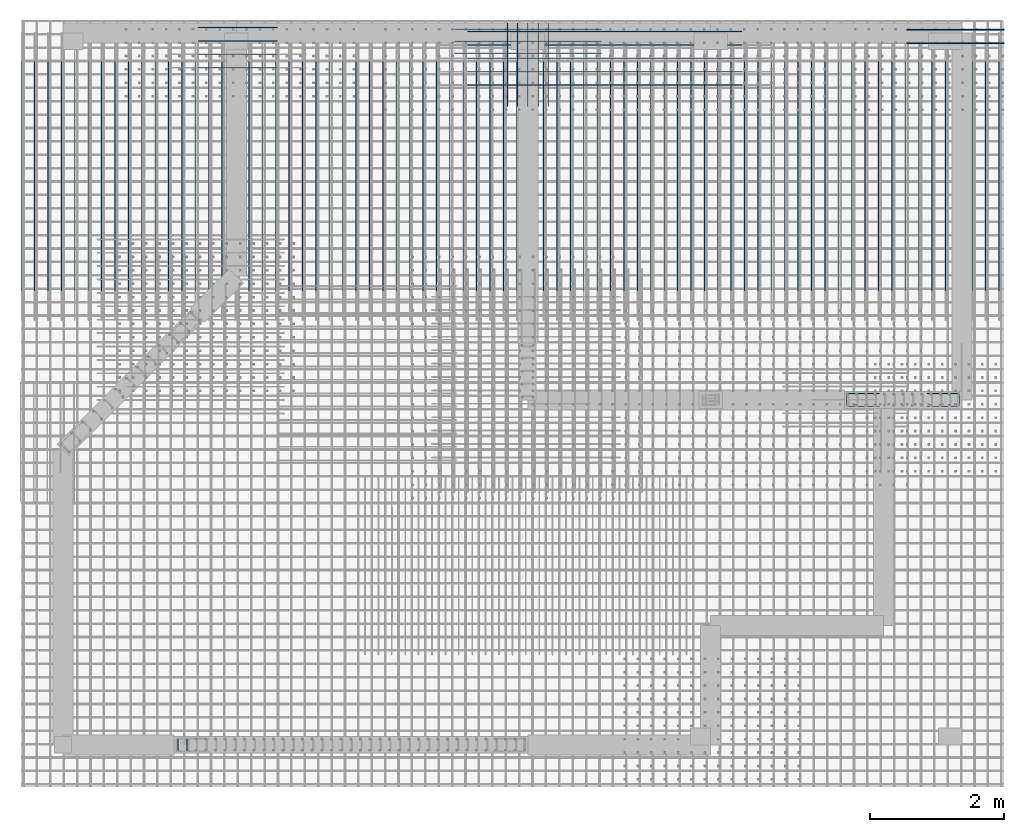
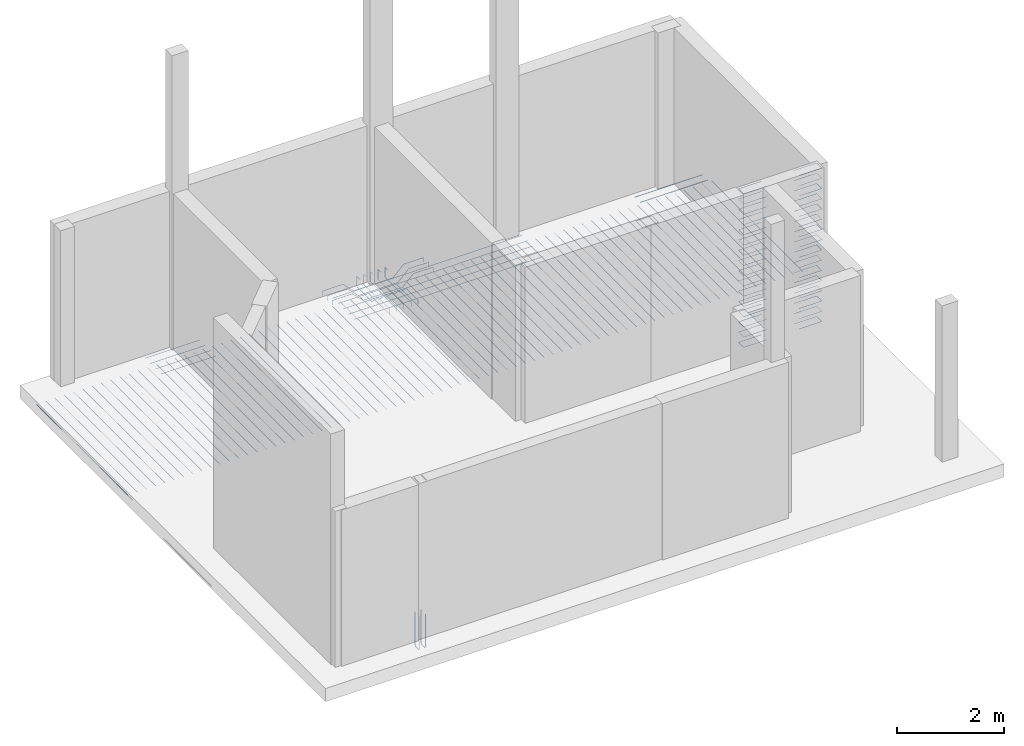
# One storey, part 8 of 8: 8 reinforcing bars.
"""IFC4 building model written with IfcOpenShell, lengths in metres."""

from ifc_helpers import new_model, entity, si_unit, origin_with_axes, place, context, project, spatial, source, transform, mapped, element, save


model = new_model("IFC4")

# Units and contexts
model_context = context("Model", 3, precision=1e-05, world=origin_with_axes())
ifc_project = project(units=[si_unit("LENGTHUNIT", "METRE"), si_unit("AREAUNIT", "SQUARE_METRE"), si_unit("VOLUMEUNIT", "CUBIC_METRE"), si_unit("MASSUNIT", "GRAM", prefix="KILO"), si_unit("TIMEUNIT", "SECOND"), si_unit("PLANEANGLEUNIT", "RADIAN"), si_unit("SOLIDANGLEUNIT", "STERADIAN"), si_unit("THERMODYNAMICTEMPERATUREUNIT", "DEGREE_CELSIUS")], contexts=[model_context])

# Site, building, storey
placement_1 = place(None, origin_with_axes())
site = spatial("IfcSite", under=ifc_project, at=placement_1, Name="Italia", CompositionType="ELEMENT")
building = spatial("IfcBuilding", under=site, at=placement_1, Name="Abitazione", CompositionType="ELEMENT")
storey = spatial("IfcBuildingStorey", under=building, at=placement_1, Name="Storey 0", CompositionType="ELEMENT", Elevation=0.0)

# Reinforcing bars
shared_shape_1 = source(origin_with_axes(), model_context, "Body", "AdvancedSweptSolid", [
    entity("IfcSweptDiskSolid", entity("IfcIndexedPolyCurve", entity("IfcCartesianPointList3D", [[3.041, 0.872, 0.5], [3.041, 0.872, -0.235], [3.041, 0.868955, -0.250307], [3.041, 0.860284, -0.263284], [3.041, 0.847307, -0.271955], [3.041, 0.832, -0.275], [3.041, 0.772, -0.275]]), [entity("IfcLineIndex", [1, 2]), entity("IfcLineIndex", [2, 3]), entity("IfcLineIndex", [3, 4]), entity("IfcLineIndex", [4, 5]), entity("IfcLineIndex", [5, 6]), entity("IfcLineIndex", [6, 7])], False), 0.008),
])
placement_2 = place(placement_1, origin_with_axes())
reinforcing_bar_1_placement = place(placement_2, origin_with_axes())
element("IfcReinforcingBar", 1, at=reinforcing_bar_1_placement, inside=storey, BarLength=0.857429, CrossSectionArea=0.00020106, NominalDiameter=0.016, context=model_context, shape_type="MappedRepresentation", body=[
    mapped(shared_shape_1, transform((6.082, 1.58, 0.0), x_axis=(-1.0, 0.0, 0.0), y_axis=(0.0, -1.0, 0.0), z_axis=(0.0, 0.0, 1.0), scale=1.0)),
    mapped(shared_shape_1, transform((0.0, 0.0, 0.0), x_axis=(1.0, 0.0, 0.0), y_axis=(0.0, 1.0, 0.0), z_axis=(0.0, 0.0, 1.0), scale=1.0)),
    mapped(shared_shape_1, transform((5.95, 1.58, 0.0), x_axis=(-1.0, 0.0, 0.0), y_axis=(0.0, -1.0, 0.0), z_axis=(0.0, 0.0, 1.0), scale=1.0)),
    mapped(shared_shape_1, transform((-0.132, 0.0, 0.0), x_axis=(1.0, 0.0, 0.0), y_axis=(0.0, 1.0, 0.0), z_axis=(0.0, 0.0, 1.0), scale=1.0)),
])
shared_shape_2 = source(origin_with_axes(), model_context, "Body", "AdvancedSweptSolid", [
    entity("IfcSweptDiskSolid", entity("IfcIndexedPolyCurve", entity("IfcCartesianPointList3D", [[14.09, 6.035, 0.04], [14.57, 6.035, 0.04], [14.5738, 6.03424, 0.04], [14.5771, 6.03207, 0.04], [14.5792, 6.02883, 0.04], [14.58, 6.025, 0.04], [14.58, 5.855, 0.04], [14.5792, 5.85117, 0.04], [14.5771, 5.84793, 0.04], [14.5738, 5.84576, 0.04], [14.57, 5.845, 0.04], [14.09, 5.845, 0.04]]), [entity("IfcLineIndex", [1, 2]), entity("IfcLineIndex", [2, 3]), entity("IfcLineIndex", [3, 4]), entity("IfcLineIndex", [4, 5]), entity("IfcLineIndex", [5, 6]), entity("IfcLineIndex", [6, 7]), entity("IfcLineIndex", [7, 8]), entity("IfcLineIndex", [8, 9]), entity("IfcLineIndex", [9, 10]), entity("IfcLineIndex", [10, 11]), entity("IfcLineIndex", [11, 12])], False), 0.005),
])
reinforcing_bar_2_placement = place(placement_2, origin_with_axes())
element("IfcReinforcingBar", 2, at=reinforcing_bar_2_placement, inside=storey, BarLength=1.16121, CrossSectionArea=7.854e-05, NominalDiameter=0.01, context=model_context, shape_type="MappedRepresentation", body=[
    mapped(shared_shape_2, transform((0.0, 0.0, 2.34), x_axis=(1.0, 0.0, 0.0), y_axis=(0.0, 1.0, 0.0), z_axis=(0.0, 0.0, 1.0), scale=1.0)),
    mapped(shared_shape_2, transform((0.0, 0.0, 2.574), x_axis=(1.0, 0.0, 0.0), y_axis=(0.0, 1.0, 0.0), z_axis=(0.0, 0.0, 1.0), scale=1.0)),
    mapped(shared_shape_2, transform((0.0, 0.0, 1.872), x_axis=(1.0, 0.0, 0.0), y_axis=(0.0, 1.0, 0.0), z_axis=(0.0, 0.0, 1.0), scale=1.0)),
    mapped(shared_shape_2, transform((0.0, 0.0, 2.106), x_axis=(1.0, 0.0, 0.0), y_axis=(0.0, 1.0, 0.0), z_axis=(0.0, 0.0, 1.0), scale=1.0)),
    mapped(shared_shape_2, transform((0.0, 0.0, 3.276), x_axis=(1.0, 0.0, 0.0), y_axis=(0.0, 1.0, 0.0), z_axis=(0.0, 0.0, 1.0), scale=1.0)),
    mapped(shared_shape_2, transform((0.0, 0.0, 3.51), x_axis=(1.0, 0.0, 0.0), y_axis=(0.0, 1.0, 0.0), z_axis=(0.0, 0.0, 1.0), scale=1.0)),
    mapped(shared_shape_2, transform((0.0, 0.0, 2.808), x_axis=(1.0, 0.0, 0.0), y_axis=(0.0, 1.0, 0.0), z_axis=(0.0, 0.0, 1.0), scale=1.0)),
    mapped(shared_shape_2, transform((0.0, 0.0, 3.042), x_axis=(1.0, 0.0, 0.0), y_axis=(0.0, 1.0, 0.0), z_axis=(0.0, 0.0, 1.0), scale=1.0)),
    mapped(shared_shape_2, transform((0.0, 0.0, 0.468), x_axis=(1.0, 0.0, 0.0), y_axis=(0.0, 1.0, 0.0), z_axis=(0.0, 0.0, 1.0), scale=1.0)),
    mapped(shared_shape_2, transform((0.0, 0.0, 0.702), x_axis=(1.0, 0.0, 0.0), y_axis=(0.0, 1.0, 0.0), z_axis=(0.0, 0.0, 1.0), scale=1.0)),
    mapped(shared_shape_2, transform((27.47, 11.88, 0.0), x_axis=(-1.0, 0.0, 0.0), y_axis=(0.0, -1.0, 0.0), z_axis=(0.0, 0.0, 1.0), scale=1.0)),
    mapped(shared_shape_2, transform((0.0, 0.0, 0.0), x_axis=(1.0, 0.0, 0.0), y_axis=(0.0, 1.0, 0.0), z_axis=(0.0, 0.0, 1.0), scale=1.0)),
    mapped(shared_shape_2, transform((27.47, 11.88, 0.234), x_axis=(-1.0, 0.0, 0.0), y_axis=(0.0, -1.0, 0.0), z_axis=(0.0, 0.0, 1.0), scale=1.0)),
    mapped(shared_shape_2, transform((0.0, 0.0, 0.234), x_axis=(1.0, 0.0, 0.0), y_axis=(0.0, 1.0, 0.0), z_axis=(0.0, 0.0, 1.0), scale=1.0)),
    mapped(shared_shape_2, transform((27.47, 11.88, 0.468), x_axis=(-1.0, 0.0, 0.0), y_axis=(0.0, -1.0, 0.0), z_axis=(0.0, 0.0, 1.0), scale=1.0)),
    mapped(shared_shape_2, transform((27.47, 11.88, 0.702), x_axis=(-1.0, 0.0, 0.0), y_axis=(0.0, -1.0, 0.0), z_axis=(0.0, 0.0, 1.0), scale=1.0)),
    mapped(shared_shape_2, transform((0.0, 0.0, 1.404), x_axis=(1.0, 0.0, 0.0), y_axis=(0.0, 1.0, 0.0), z_axis=(0.0, 0.0, 1.0), scale=1.0)),
    mapped(shared_shape_2, transform((0.0, 0.0, 1.638), x_axis=(1.0, 0.0, 0.0), y_axis=(0.0, 1.0, 0.0), z_axis=(0.0, 0.0, 1.0), scale=1.0)),
    mapped(shared_shape_2, transform((27.47, 11.88, 0.936), x_axis=(-1.0, 0.0, 0.0), y_axis=(0.0, -1.0, 0.0), z_axis=(0.0, 0.0, 1.0), scale=1.0)),
    mapped(shared_shape_2, transform((0.0, 0.0, 0.936), x_axis=(1.0, 0.0, 0.0), y_axis=(0.0, 1.0, 0.0), z_axis=(0.0, 0.0, 1.0), scale=1.0)),
    mapped(shared_shape_2, transform((27.47, 11.88, 1.17), x_axis=(-1.0, 0.0, 0.0), y_axis=(0.0, -1.0, 0.0), z_axis=(0.0, 0.0, 1.0), scale=1.0)),
    mapped(shared_shape_2, transform((0.0, 0.0, 1.17), x_axis=(1.0, 0.0, 0.0), y_axis=(0.0, 1.0, 0.0), z_axis=(0.0, 0.0, 1.0), scale=1.0)),
    mapped(shared_shape_2, transform((27.47, 11.88, 2.34), x_axis=(-1.0, 0.0, 0.0), y_axis=(0.0, -1.0, 0.0), z_axis=(0.0, 0.0, 1.0), scale=1.0)),
    mapped(shared_shape_2, transform((27.47, 11.88, 2.574), x_axis=(-1.0, 0.0, 0.0), y_axis=(0.0, -1.0, 0.0), z_axis=(0.0, 0.0, 1.0), scale=1.0)),
    mapped(shared_shape_2, transform((27.47, 11.88, 1.872), x_axis=(-1.0, 0.0, 0.0), y_axis=(0.0, -1.0, 0.0), z_axis=(0.0, 0.0, 1.0), scale=1.0)),
    mapped(shared_shape_2, transform((27.47, 11.88, 2.106), x_axis=(-1.0, 0.0, 0.0), y_axis=(0.0, -1.0, 0.0), z_axis=(0.0, 0.0, 1.0), scale=1.0)),
    mapped(shared_shape_2, transform((27.47, 11.88, 3.276), x_axis=(-1.0, 0.0, 0.0), y_axis=(0.0, -1.0, 0.0), z_axis=(0.0, 0.0, 1.0), scale=1.0)),
    mapped(shared_shape_2, transform((27.47, 11.88, 3.51), x_axis=(-1.0, 0.0, 0.0), y_axis=(0.0, -1.0, 0.0), z_axis=(0.0, 0.0, 1.0), scale=1.0)),
    mapped(shared_shape_2, transform((27.47, 11.88, 2.808), x_axis=(-1.0, 0.0, 0.0), y_axis=(0.0, -1.0, 0.0), z_axis=(0.0, 0.0, 1.0), scale=1.0)),
    mapped(shared_shape_2, transform((27.47, 11.88, 3.042), x_axis=(-1.0, 0.0, 0.0), y_axis=(0.0, -1.0, 0.0), z_axis=(0.0, 0.0, 1.0), scale=1.0)),
    mapped(shared_shape_2, transform((27.47, 11.88, 1.404), x_axis=(-1.0, 0.0, 0.0), y_axis=(0.0, -1.0, 0.0), z_axis=(0.0, 0.0, 1.0), scale=1.0)),
    mapped(shared_shape_2, transform((27.47, 11.88, 1.638), x_axis=(-1.0, 0.0, 0.0), y_axis=(0.0, -1.0, 0.0), z_axis=(0.0, 0.0, 1.0), scale=1.0)),
])
shared_shape_3 = source(origin_with_axes(), model_context, "Body", "AdvancedSweptSolid", [
    entity("IfcSweptDiskSolid", entity("IfcIndexedPolyCurve", entity("IfcCartesianPointList3D", [[0.566, 7.56353, -0.066], [0.566, 10.9894, -0.066]]), [entity("IfcLineIndex", [1, 2])], False), 0.006),
])
reinforcing_bar_3_placement = place(placement_2, origin_with_axes())
element("IfcReinforcingBar", 3, at=reinforcing_bar_3_placement, inside=storey, BarLength=3.42591, CrossSectionArea=0.0001131, NominalDiameter=0.012, context=model_context, shape_type="MappedRepresentation", body=[
    mapped(shared_shape_3, transform((7.2, 0.0, 0.0), x_axis=(1.0, 0.0, 0.0), y_axis=(0.0, 1.0, 0.0), z_axis=(0.0, 0.0, 1.0), scale=1.0)),
    mapped(shared_shape_3, transform((7.0, 0.0, 0.0), x_axis=(1.0, 0.0, 0.0), y_axis=(0.0, 1.0, 0.0), z_axis=(0.0, 0.0, 1.0), scale=1.0)),
    mapped(shared_shape_3, transform((5.0, 0.0, 0.0), x_axis=(1.0, 0.0, 0.0), y_axis=(0.0, 1.0, 0.0), z_axis=(0.0, 0.0, 1.0), scale=1.0)),
    mapped(shared_shape_3, transform((4.8, 0.0, 0.0), x_axis=(1.0, 0.0, 0.0), y_axis=(0.0, 1.0, 0.0), z_axis=(0.0, 0.0, 1.0), scale=1.0)),
    mapped(shared_shape_3, transform((4.6, 0.0, 0.0), x_axis=(1.0, 0.0, 0.0), y_axis=(0.0, 1.0, 0.0), z_axis=(0.0, 0.0, 1.0), scale=1.0)),
    mapped(shared_shape_3, transform((4.4, 0.0, 0.0), x_axis=(1.0, 0.0, 0.0), y_axis=(0.0, 1.0, 0.0), z_axis=(0.0, 0.0, 1.0), scale=1.0)),
    mapped(shared_shape_3, transform((4.2, 0.0, 0.0), x_axis=(1.0, 0.0, 0.0), y_axis=(0.0, 1.0, 0.0), z_axis=(0.0, 0.0, 1.0), scale=1.0)),
    mapped(shared_shape_3, transform((4.0, 0.0, 0.0), x_axis=(1.0, 0.0, 0.0), y_axis=(0.0, 1.0, 0.0), z_axis=(0.0, 0.0, 1.0), scale=1.0)),
    mapped(shared_shape_3, transform((3.8, 0.0, 0.0), x_axis=(1.0, 0.0, 0.0), y_axis=(0.0, 1.0, 0.0), z_axis=(0.0, 0.0, 1.0), scale=1.0)),
    mapped(shared_shape_3, transform((5.4, 0.0, 0.0), x_axis=(1.0, 0.0, 0.0), y_axis=(0.0, 1.0, 0.0), z_axis=(0.0, 0.0, 1.0), scale=1.0)),
    mapped(shared_shape_3, transform((5.2, 0.0, 0.0), x_axis=(1.0, 0.0, 0.0), y_axis=(0.0, 1.0, 0.0), z_axis=(0.0, 0.0, 1.0), scale=1.0)),
    mapped(shared_shape_3, transform((6.8, 0.0, 0.0), x_axis=(1.0, 0.0, 0.0), y_axis=(0.0, 1.0, 0.0), z_axis=(0.0, 0.0, 1.0), scale=1.0)),
    mapped(shared_shape_3, transform((6.6, 0.0, 0.0), x_axis=(1.0, 0.0, 0.0), y_axis=(0.0, 1.0, 0.0), z_axis=(0.0, 0.0, 1.0), scale=1.0)),
    mapped(shared_shape_3, transform((6.4, 0.0, 0.0), x_axis=(1.0, 0.0, 0.0), y_axis=(0.0, 1.0, 0.0), z_axis=(0.0, 0.0, 1.0), scale=1.0)),
    mapped(shared_shape_3, transform((6.2, 0.0, 0.0), x_axis=(1.0, 0.0, 0.0), y_axis=(0.0, 1.0, 0.0), z_axis=(0.0, 0.0, 1.0), scale=1.0)),
    mapped(shared_shape_3, transform((6.0, 0.0, 0.0), x_axis=(1.0, 0.0, 0.0), y_axis=(0.0, 1.0, 0.0), z_axis=(0.0, 0.0, 1.0), scale=1.0)),
    mapped(shared_shape_3, transform((5.8, 0.0, 0.0), x_axis=(1.0, 0.0, 0.0), y_axis=(0.0, 1.0, 0.0), z_axis=(0.0, 0.0, 1.0), scale=1.0)),
    mapped(shared_shape_3, transform((5.6, 0.0, 0.0), x_axis=(1.0, 0.0, 0.0), y_axis=(0.0, 1.0, 0.0), z_axis=(0.0, 0.0, 1.0), scale=1.0)),
    mapped(shared_shape_3, transform((3.6, 0.0, 0.0), x_axis=(1.0, 0.0, 0.0), y_axis=(0.0, 1.0, 0.0), z_axis=(0.0, 0.0, 1.0), scale=1.0)),
    mapped(shared_shape_3, transform((3.4, 0.0, 0.0), x_axis=(1.0, 0.0, 0.0), y_axis=(0.0, 1.0, 0.0), z_axis=(0.0, 0.0, 1.0), scale=1.0)),
    mapped(shared_shape_3, transform((1.4, 0.0, 0.0), x_axis=(1.0, 0.0, 0.0), y_axis=(0.0, 1.0, 0.0), z_axis=(0.0, 0.0, 1.0), scale=1.0)),
    mapped(shared_shape_3, transform((1.2, 0.0, 0.0), x_axis=(1.0, 0.0, 0.0), y_axis=(0.0, 1.0, 0.0), z_axis=(0.0, 0.0, 1.0), scale=1.0)),
    mapped(shared_shape_3, transform((1.0, 0.0, 0.0), x_axis=(1.0, 0.0, 0.0), y_axis=(0.0, 1.0, 0.0), z_axis=(0.0, 0.0, 1.0), scale=1.0)),
    mapped(shared_shape_3, transform((0.8, 0.0, 0.0), x_axis=(1.0, 0.0, 0.0), y_axis=(0.0, 1.0, 0.0), z_axis=(0.0, 0.0, 1.0), scale=1.0)),
    mapped(shared_shape_3, transform((0.6, 0.0, 0.0), x_axis=(1.0, 0.0, 0.0), y_axis=(0.0, 1.0, 0.0), z_axis=(0.0, 0.0, 1.0), scale=1.0)),
    mapped(shared_shape_3, transform((0.4, 0.0, 0.0), x_axis=(1.0, 0.0, 0.0), y_axis=(0.0, 1.0, 0.0), z_axis=(0.0, 0.0, 1.0), scale=1.0)),
    mapped(shared_shape_3, transform((0.2, 0.0, 0.0), x_axis=(1.0, 0.0, 0.0), y_axis=(0.0, 1.0, 0.0), z_axis=(0.0, 0.0, 1.0), scale=1.0)),
    mapped(shared_shape_3, transform((1.8, 0.0, 0.0), x_axis=(1.0, 0.0, 0.0), y_axis=(0.0, 1.0, 0.0), z_axis=(0.0, 0.0, 1.0), scale=1.0)),
    mapped(shared_shape_3, transform((1.6, 0.0, 0.0), x_axis=(1.0, 0.0, 0.0), y_axis=(0.0, 1.0, 0.0), z_axis=(0.0, 0.0, 1.0), scale=1.0)),
    mapped(shared_shape_3, transform((3.2, 0.0, 0.0), x_axis=(1.0, 0.0, 0.0), y_axis=(0.0, 1.0, 0.0), z_axis=(0.0, 0.0, 1.0), scale=1.0)),
    mapped(shared_shape_3, transform((3.0, 0.0, 0.0), x_axis=(1.0, 0.0, 0.0), y_axis=(0.0, 1.0, 0.0), z_axis=(0.0, 0.0, 1.0), scale=1.0)),
    mapped(shared_shape_3, transform((2.8, 0.0, 0.0), x_axis=(1.0, 0.0, 0.0), y_axis=(0.0, 1.0, 0.0), z_axis=(0.0, 0.0, 1.0), scale=1.0)),
    mapped(shared_shape_3, transform((2.6, 0.0, 0.0), x_axis=(1.0, 0.0, 0.0), y_axis=(0.0, 1.0, 0.0), z_axis=(0.0, 0.0, 1.0), scale=1.0)),
    mapped(shared_shape_3, transform((2.4, 0.0, 0.0), x_axis=(1.0, 0.0, 0.0), y_axis=(0.0, 1.0, 0.0), z_axis=(0.0, 0.0, 1.0), scale=1.0)),
    mapped(shared_shape_3, transform((2.2, 0.0, 0.0), x_axis=(1.0, 0.0, 0.0), y_axis=(0.0, 1.0, 0.0), z_axis=(0.0, 0.0, 1.0), scale=1.0)),
    mapped(shared_shape_3, transform((2.0, 0.0, 0.0), x_axis=(1.0, 0.0, 0.0), y_axis=(0.0, 1.0, 0.0), z_axis=(0.0, 0.0, 1.0), scale=1.0)),
    mapped(shared_shape_3, transform((0.0, 0.0, 0.0), x_axis=(1.0, 0.0, 0.0), y_axis=(0.0, 1.0, 0.0), z_axis=(0.0, 0.0, 1.0), scale=1.0)),
    mapped(shared_shape_3, transform((14.6, 0.0, 0.0), x_axis=(1.0, 0.0, 0.0), y_axis=(0.0, 1.0, 0.0), z_axis=(0.0, 0.0, 1.0), scale=1.0)),
    mapped(shared_shape_3, transform((12.6, 0.0, 0.0), x_axis=(1.0, 0.0, 0.0), y_axis=(0.0, 1.0, 0.0), z_axis=(0.0, 0.0, 1.0), scale=1.0)),
    mapped(shared_shape_3, transform((12.4, 0.0, 0.0), x_axis=(1.0, 0.0, 0.0), y_axis=(0.0, 1.0, 0.0), z_axis=(0.0, 0.0, 1.0), scale=1.0)),
    mapped(shared_shape_3, transform((12.2, 0.0, 0.0), x_axis=(1.0, 0.0, 0.0), y_axis=(0.0, 1.0, 0.0), z_axis=(0.0, 0.0, 1.0), scale=1.0)),
    mapped(shared_shape_3, transform((12.0, 0.0, 0.0), x_axis=(1.0, 0.0, 0.0), y_axis=(0.0, 1.0, 0.0), z_axis=(0.0, 0.0, 1.0), scale=1.0)),
    mapped(shared_shape_3, transform((11.8, 0.0, 0.0), x_axis=(1.0, 0.0, 0.0), y_axis=(0.0, 1.0, 0.0), z_axis=(0.0, 0.0, 1.0), scale=1.0)),
    mapped(shared_shape_3, transform((11.6, 0.0, 0.0), x_axis=(1.0, 0.0, 0.0), y_axis=(0.0, 1.0, 0.0), z_axis=(0.0, 0.0, 1.0), scale=1.0)),
    mapped(shared_shape_3, transform((11.4, 0.0, 0.0), x_axis=(1.0, 0.0, 0.0), y_axis=(0.0, 1.0, 0.0), z_axis=(0.0, 0.0, 1.0), scale=1.0)),
    mapped(shared_shape_3, transform((13.0, 0.0, 0.0), x_axis=(1.0, 0.0, 0.0), y_axis=(0.0, 1.0, 0.0), z_axis=(0.0, 0.0, 1.0), scale=1.0)),
    mapped(shared_shape_3, transform((12.8, 0.0, 0.0), x_axis=(1.0, 0.0, 0.0), y_axis=(0.0, 1.0, 0.0), z_axis=(0.0, 0.0, 1.0), scale=1.0)),
    mapped(shared_shape_3, transform((14.4, 0.0, 0.0), x_axis=(1.0, 0.0, 0.0), y_axis=(0.0, 1.0, 0.0), z_axis=(0.0, 0.0, 1.0), scale=1.0)),
    mapped(shared_shape_3, transform((14.2, 0.0, 0.0), x_axis=(1.0, 0.0, 0.0), y_axis=(0.0, 1.0, 0.0), z_axis=(0.0, 0.0, 1.0), scale=1.0)),
    mapped(shared_shape_3, transform((14.0, 0.0, 0.0), x_axis=(1.0, 0.0, 0.0), y_axis=(0.0, 1.0, 0.0), z_axis=(0.0, 0.0, 1.0), scale=1.0)),
    mapped(shared_shape_3, transform((13.8, 0.0, 0.0), x_axis=(1.0, 0.0, 0.0), y_axis=(0.0, 1.0, 0.0), z_axis=(0.0, 0.0, 1.0), scale=1.0)),
    mapped(shared_shape_3, transform((13.6, 0.0, 0.0), x_axis=(1.0, 0.0, 0.0), y_axis=(0.0, 1.0, 0.0), z_axis=(0.0, 0.0, 1.0), scale=1.0)),
    mapped(shared_shape_3, transform((13.4, 0.0, 0.0), x_axis=(1.0, 0.0, 0.0), y_axis=(0.0, 1.0, 0.0), z_axis=(0.0, 0.0, 1.0), scale=1.0)),
    mapped(shared_shape_3, transform((13.2, 0.0, 0.0), x_axis=(1.0, 0.0, 0.0), y_axis=(0.0, 1.0, 0.0), z_axis=(0.0, 0.0, 1.0), scale=1.0)),
    mapped(shared_shape_3, transform((11.2, 0.0, 0.0), x_axis=(1.0, 0.0, 0.0), y_axis=(0.0, 1.0, 0.0), z_axis=(0.0, 0.0, 1.0), scale=1.0)),
    mapped(shared_shape_3, transform((11.0, 0.0, 0.0), x_axis=(1.0, 0.0, 0.0), y_axis=(0.0, 1.0, 0.0), z_axis=(0.0, 0.0, 1.0), scale=1.0)),
    mapped(shared_shape_3, transform((9.0, 0.0, 0.0), x_axis=(1.0, 0.0, 0.0), y_axis=(0.0, 1.0, 0.0), z_axis=(0.0, 0.0, 1.0), scale=1.0)),
    mapped(shared_shape_3, transform((8.8, 0.0, 0.0), x_axis=(1.0, 0.0, 0.0), y_axis=(0.0, 1.0, 0.0), z_axis=(0.0, 0.0, 1.0), scale=1.0)),
    mapped(shared_shape_3, transform((8.6, 0.0, 0.0), x_axis=(1.0, 0.0, 0.0), y_axis=(0.0, 1.0, 0.0), z_axis=(0.0, 0.0, 1.0), scale=1.0)),
    mapped(shared_shape_3, transform((8.4, 0.0, 0.0), x_axis=(1.0, 0.0, 0.0), y_axis=(0.0, 1.0, 0.0), z_axis=(0.0, 0.0, 1.0), scale=1.0)),
    mapped(shared_shape_3, transform((8.2, 0.0, 0.0), x_axis=(1.0, 0.0, 0.0), y_axis=(0.0, 1.0, 0.0), z_axis=(0.0, 0.0, 1.0), scale=1.0)),
    mapped(shared_shape_3, transform((8.0, 0.0, 0.0), x_axis=(1.0, 0.0, 0.0), y_axis=(0.0, 1.0, 0.0), z_axis=(0.0, 0.0, 1.0), scale=1.0)),
    mapped(shared_shape_3, transform((7.8, 0.0, 0.0), x_axis=(1.0, 0.0, 0.0), y_axis=(0.0, 1.0, 0.0), z_axis=(0.0, 0.0, 1.0), scale=1.0)),
    mapped(shared_shape_3, transform((9.39999, 0.0, 0.0), x_axis=(1.0, 0.0, 0.0), y_axis=(0.0, 1.0, 0.0), z_axis=(0.0, 0.0, 1.0), scale=1.0)),
    mapped(shared_shape_3, transform((9.2, 0.0, 0.0), x_axis=(1.0, 0.0, 0.0), y_axis=(0.0, 1.0, 0.0), z_axis=(0.0, 0.0, 1.0), scale=1.0)),
    mapped(shared_shape_3, transform((10.8, 0.0, 0.0), x_axis=(1.0, 0.0, 0.0), y_axis=(0.0, 1.0, 0.0), z_axis=(0.0, 0.0, 1.0), scale=1.0)),
    mapped(shared_shape_3, transform((10.6, 0.0, 0.0), x_axis=(1.0, 0.0, 0.0), y_axis=(0.0, 1.0, 0.0), z_axis=(0.0, 0.0, 1.0), scale=1.0)),
    mapped(shared_shape_3, transform((10.4, 0.0, 0.0), x_axis=(1.0, 0.0, 0.0), y_axis=(0.0, 1.0, 0.0), z_axis=(0.0, 0.0, 1.0), scale=1.0)),
    mapped(shared_shape_3, transform((10.2, 0.0, 0.0), x_axis=(1.0, 0.0, 0.0), y_axis=(0.0, 1.0, 0.0), z_axis=(0.0, 0.0, 1.0), scale=1.0)),
    mapped(shared_shape_3, transform((9.99999, 0.0, 0.0), x_axis=(1.0, 0.0, 0.0), y_axis=(0.0, 1.0, 0.0), z_axis=(0.0, 0.0, 1.0), scale=1.0)),
    mapped(shared_shape_3, transform((9.79999, 0.0, 0.0), x_axis=(1.0, 0.0, 0.0), y_axis=(0.0, 1.0, 0.0), z_axis=(0.0, 0.0, 1.0), scale=1.0)),
    mapped(shared_shape_3, transform((9.59999, 0.0, 0.0), x_axis=(1.0, 0.0, 0.0), y_axis=(0.0, 1.0, 0.0), z_axis=(0.0, 0.0, 1.0), scale=1.0)),
    mapped(shared_shape_3, transform((7.6, 0.0, 0.0), x_axis=(1.0, 0.0, 0.0), y_axis=(0.0, 1.0, 0.0), z_axis=(0.0, 0.0, 1.0), scale=1.0)),
    mapped(shared_shape_3, transform((7.4, 0.0, 0.0), x_axis=(1.0, 0.0, 0.0), y_axis=(0.0, 1.0, 0.0), z_axis=(0.0, 0.0, 1.0), scale=1.0)),
])
shared_shape_4 = source(origin_with_axes(), model_context, "Body", "AdvancedSweptSolid", [
    entity("IfcSweptDiskSolid", entity("IfcIndexedPolyCurve", entity("IfcCartesianPointList3D", [[3.20401, 10.9005, -0.246], [4.38992, 10.9005, -0.246]]), [entity("IfcLineIndex", [1, 2])], False), 0.006),
])
reinforcing_bar_4_placement = place(placement_2, origin_with_axes())
element("IfcReinforcingBar", 4, at=reinforcing_bar_4_placement, inside=storey, BarLength=1.18591, CrossSectionArea=0.0001131, NominalDiameter=0.012, context=model_context, shape_type="MappedRepresentation", body=[
    mapped(shared_shape_4, transform((0.0, 0.199999, 0.0), x_axis=(1.0, 0.0, 0.0), y_axis=(0.0, 1.0, 0.0), z_axis=(0.0, 0.0, 1.0), scale=1.0)),
    mapped(shared_shape_4, transform((0.0, 0.0, 0.0), x_axis=(1.0, 0.0, 0.0), y_axis=(0.0, 1.0, 0.0), z_axis=(0.0, 0.0, 1.0), scale=1.0)),
    mapped(shared_shape_4, transform((0.0, 0.599998, 0.0), x_axis=(1.0, 0.0, 0.0), y_axis=(0.0, 1.0, 0.0), z_axis=(0.0, 0.0, 1.0), scale=1.0)),
    mapped(shared_shape_4, transform((0.0, 0.399999, 0.0), x_axis=(1.0, 0.0, 0.0), y_axis=(0.0, 1.0, 0.0), z_axis=(0.0, 0.0, 1.0), scale=1.0)),
])
shared_shape_5 = source(origin_with_axes(), model_context, "Body", "AdvancedSweptSolid", [
    entity("IfcSweptDiskSolid", entity("IfcIndexedPolyCurve", entity("IfcCartesianPointList3D", [[7.23179, 10.6397, -0.246], [11.3277, 10.6397, -0.246]]), [entity("IfcLineIndex", [1, 2])], False), 0.006),
])
reinforcing_bar_5_placement = place(placement_2, origin_with_axes())
element("IfcReinforcingBar", 5, at=reinforcing_bar_5_placement, inside=storey, BarLength=4.09591, CrossSectionArea=0.0001131, NominalDiameter=0.012, context=model_context, shape_type="MappedRepresentation", body=[
    mapped(shared_shape_5, transform((0.0, 0.0, 0.0), x_axis=(1.0, 0.0, 0.0), y_axis=(0.0, 1.0, 0.0), z_axis=(0.0, 0.0, 1.0), scale=1.0)),
    mapped(shared_shape_5, transform((0.0, 0.200001, 0.0), x_axis=(1.0, 0.0, 0.0), y_axis=(0.0, 1.0, 0.0), z_axis=(0.0, 0.0, 1.0), scale=1.0)),
    mapped(shared_shape_5, transform((0.0, 0.400001, 0.0), x_axis=(1.0, 0.0, 0.0), y_axis=(0.0, 1.0, 0.0), z_axis=(0.0, 0.0, 1.0), scale=1.0)),
    mapped(shared_shape_5, transform((0.0, 0.6, 0.0), x_axis=(1.0, 0.0, 0.0), y_axis=(0.0, 1.0, 0.0), z_axis=(0.0, 0.0, 1.0), scale=1.0)),
    mapped(shared_shape_5, transform((0.0, 0.8, 0.0), x_axis=(1.0, 0.0, 0.0), y_axis=(0.0, 1.0, 0.0), z_axis=(0.0, 0.0, 1.0), scale=1.0)),
])
shared_shape_6 = source(origin_with_axes(), model_context, "Body", "AdvancedSweptSolid", [
    entity("IfcSweptDiskSolid", entity("IfcIndexedPolyCurve", entity("IfcCartesianPointList3D", [[13.785, 11.267, -0.246], [15.24, 11.267, -0.246]]), [entity("IfcLineIndex", [1, 2])], False), 0.006),
])
reinforcing_bar_6_placement = place(placement_2, origin_with_axes())
element("IfcReinforcingBar", 6, at=reinforcing_bar_6_placement, inside=storey, BarLength=1.45505, CrossSectionArea=0.0001131, NominalDiameter=0.012, context=model_context, shape_type="MappedRepresentation", body=[
    mapped(shared_shape_6, transform((0.0, 0.2, 0.0), x_axis=(1.0, 0.0, 0.0), y_axis=(0.0, 1.0, 0.0), z_axis=(0.0, 0.0, 1.0), scale=1.0)),
    mapped(shared_shape_6, transform((0.0, 0.0, 0.0), x_axis=(1.0, 0.0, 0.0), y_axis=(0.0, 1.0, 0.0), z_axis=(0.0, 0.0, 1.0), scale=1.0)),
])
shared_shape_7 = source(origin_with_axes(), model_context, "Body", "AdvancedSweptSolid", [
    entity("IfcSweptDiskSolid", entity("IfcIndexedPolyCurve", entity("IfcCartesianPointList3D", [[7.03795, 11.116, -0.135], [7.03795, 11.116, -0.035], [7.03795, 11.116, -0.035], [7.475, 11.116, -0.035], [7.705, 11.116, -0.265], [8.555, 11.116, -0.265], [8.785, 11.116, -0.035], [9.22205, 11.116, -0.035], [9.22205, 11.116, -0.035], [9.22205, 11.116, -0.135]]), [entity("IfcLineIndex", [1, 2]), entity("IfcLineIndex", [2, 3]), entity("IfcLineIndex", [3, 4]), entity("IfcLineIndex", [4, 5]), entity("IfcLineIndex", [5, 6]), entity("IfcLineIndex", [6, 7]), entity("IfcLineIndex", [7, 8]), entity("IfcLineIndex", [8, 9]), entity("IfcLineIndex", [9, 10])], False), 0.006),
])
reinforcing_bar_7_placement = place(placement_2, origin_with_axes())
element("IfcReinforcingBar", 7, at=reinforcing_bar_7_placement, inside=storey, BarLength=2.57463, CrossSectionArea=0.0001131, NominalDiameter=0.012, context=model_context, shape_type="MappedRepresentation", body=[
    mapped(shared_shape_7, transform((0.0, 0.178999, 0.0), x_axis=(1.0, 0.0, 0.0), y_axis=(0.0, 1.0, 0.0), z_axis=(0.0, 0.0, 1.0), scale=1.0)),
    mapped(shared_shape_7, transform((0.0, 0.357999, 0.0), x_axis=(1.0, 0.0, 0.0), y_axis=(0.0, 1.0, 0.0), z_axis=(0.0, 0.0, 1.0), scale=1.0)),
    mapped(shared_shape_7, transform((0.0, 0.0, 0.0), x_axis=(1.0, 0.0, 0.0), y_axis=(0.0, 1.0, 0.0), z_axis=(0.0, 0.0, 1.0), scale=1.0)),
])
shared_shape_8 = source(origin_with_axes(), model_context, "Body", "AdvancedSweptSolid", [
    entity("IfcSweptDiskSolid", entity("IfcIndexedPolyCurve", entity("IfcCartesianPointList3D", [[8.434, 10.328, -0.135], [8.434, 10.328, -0.035], [8.434, 10.328, -0.035], [8.434, 10.765, -0.035], [8.434, 10.995, -0.265], [8.434, 11.565, -0.265], [8.434, 11.565, -0.035], [8.434, 11.565, -0.035], [8.434, 11.465, -0.035]]), [entity("IfcLineIndex", [1, 2]), entity("IfcLineIndex", [2, 3]), entity("IfcLineIndex", [3, 4]), entity("IfcLineIndex", [4, 5]), entity("IfcLineIndex", [5, 6]), entity("IfcLineIndex", [6, 7]), entity("IfcLineIndex", [7, 8]), entity("IfcLineIndex", [8, 9])], False), 0.006),
])
reinforcing_bar_8_placement = place(placement_2, origin_with_axes())
element("IfcReinforcingBar", 8, at=reinforcing_bar_8_placement, inside=storey, BarLength=1.76232, CrossSectionArea=0.0001131, NominalDiameter=0.012, context=model_context, shape_type="MappedRepresentation", body=[
    mapped(shared_shape_8, transform((0.0, 0.0, 0.0), x_axis=(1.0, 0.0, 0.0), y_axis=(0.0, 1.0, 0.0), z_axis=(0.0, 0.0, 1.0), scale=1.0)),
    mapped(shared_shape_8, transform((-0.607999, 0.0, 0.0), x_axis=(1.0, 0.0, 0.0), y_axis=(0.0, 1.0, 0.0), z_axis=(0.0, 0.0, 1.0), scale=1.0)),
    mapped(shared_shape_8, transform((-0.149057, 0.0, 0.0), x_axis=(1.0, 0.0, 0.0), y_axis=(0.0, 1.0, 0.0), z_axis=(0.0, 0.0, 1.0), scale=1.0)),
    mapped(shared_shape_8, transform((-0.303999, 0.0, 0.0), x_axis=(1.0, 0.0, 0.0), y_axis=(0.0, 1.0, 0.0), z_axis=(0.0, 0.0, 1.0), scale=1.0)),
    mapped(shared_shape_8, transform((-0.458941, 0.0, 0.0), x_axis=(1.0, 0.0, 0.0), y_axis=(0.0, 1.0, 0.0), z_axis=(0.0, 0.0, 1.0), scale=1.0)),
])

save(model, "model.ifc")
